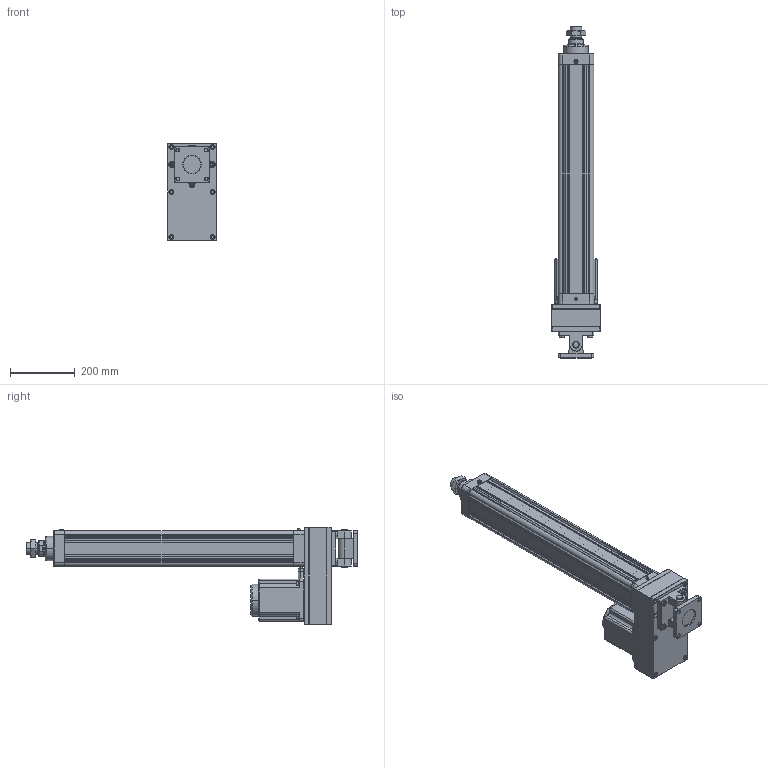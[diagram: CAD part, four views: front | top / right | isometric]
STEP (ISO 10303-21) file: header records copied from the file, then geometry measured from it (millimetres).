
FILE_DESCRIPTION((''),'2;1');
FILE_NAME('HE100-D-P_ASM','2020-05-13T',('ASUS20200'),(''),'CREO PARAMETRIC BY PTC INC, 2014190','CREO PARAMETRIC BY PTC INC, 2014190','');
FILE_SCHEMA(('CONFIG_CONTROL_DESIGN'));
Length unit declared in the file: millimetre
Products named in the file (28): HE100-D-P-001-X1; HE100-D-P-002-X1; HE100-D-P-003-X1; JDB506030; SLM-01; YZ-M6X1; HE100-100-D-P-X1_ASM; HE100-P-010-X1-130N; 130ST-M10010; HE100-P-009-X1-130N; HE100-P-013-X1-130N; TD-8; M8X35; M8X75; LM-M8-7-5; M10X1-25-40; LM-M10-30; LM-M10; HE100-D-P-005-X1; HE100-D-P-004-X1; HE80-D-P-008-X1; LGLM-M10-25; F-SE100CB; F-SE100CB-XD; F-SE100CB_ASM; F-SE100CA; M10X30; HE100-D-P_ASM
Assembly tree (47 placements, depth 3):
  HE100-D-P_ASM
    HE100-100-D-P-X1_ASM
      HE100-D-P-001-X1
      HE100-D-P-002-X1
      HE100-D-P-003-X1
      JDB506030
      SLM-01
      YZ-M6X1
    HE100-P-010-X1-130N
    130ST-M10010
    HE100-P-009-X1-130N
    HE100-P-013-X1-130N
    TD-8  x4
    M8X35  x4
    M8X75  x6
    LM-M8-7-5  x4
    M10X1-25-40
    LM-M10-30
    LM-M10
    HE100-D-P-005-X1
    HE100-D-P-004-X1
    HE80-D-P-008-X1
    LGLM-M10-25  x4
    F-SE100CB_ASM
      F-SE100CB
      F-SE100CB-XD
    F-SE100CA
    M10X30  x4
Bounding box: 150 x 1026 x 300 mm (x, y, z)
Volume: 7552158 mm3; surface area: 1690570.2 mm2
Topology: 45 solids, 79 shells, 2479 faces, 5740 edges, 3434 vertices
Faces by surface type: plane 885, cone 785, cylinder 693, torus 86, sphere 26, bspline 4
Entity records: 58897 total; most frequent: CARTESIAN_POINT 11279, DIRECTION 10521, ORIENTED_EDGE 9202, EDGE_CURVE 4660, AXIS2_PLACEMENT_3D 4022, VERTEX_POINT 2791, VECTOR 2477, LINE 2477
